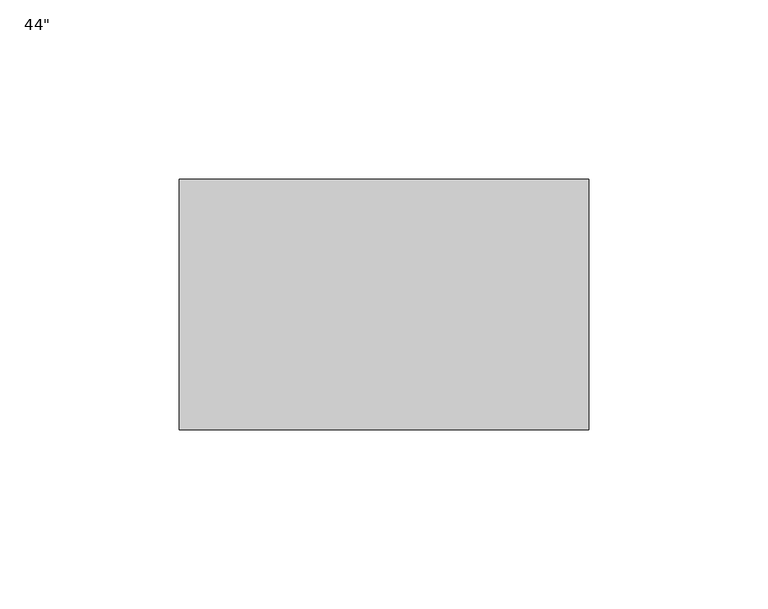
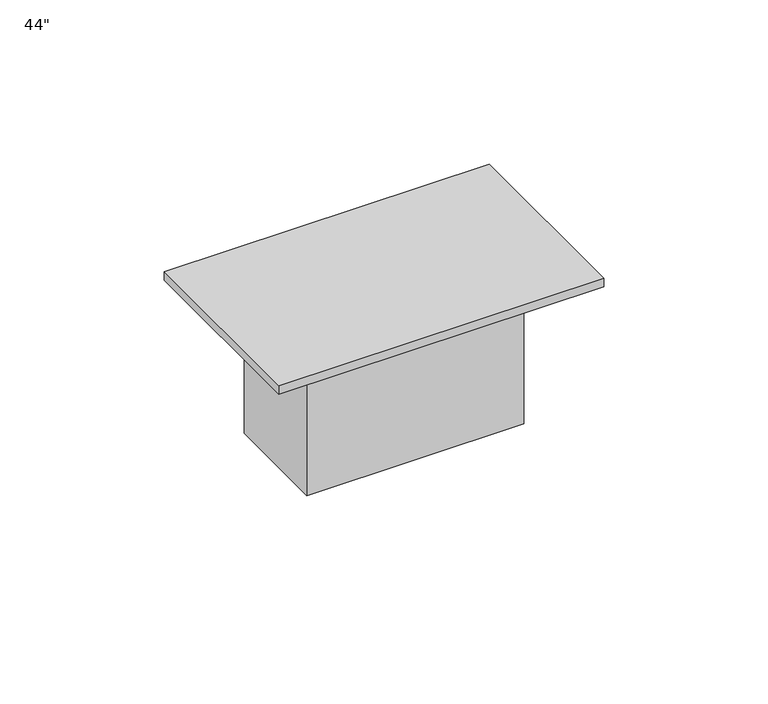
"""IFC4 building model written with IfcOpenShell, lengths in millimetres: proxy geometry."""

import ifcopenshell
import ifcopenshell.guid

model = None  # the IFC model being written
_history = None  # IfcOwnerHistory: only IFC2X3 demands one
_inside = {}  # id of a spatial element -> (the spatial element, [elements in it])
_under = {}  # id of a project, library or spatial element -> (it, [spatial elements below it])
_declared = {}  # id of a project -> (the project, [libraries it declares])
_typed = {}  # id of a type object -> (the type object, [elements of that type])
_made_of = {}  # id of a material, layer set ... -> (it, [elements and type objects made of it])


def new_model(schema):
    """Start an empty IFC model of exactly this schema.

    Asked for "IFC4X3", IfcOpenShell would pick the latest addendum, in which some entities
    have other attributes; the version numbers below select the first issue.
    IFC2X3 requires an IfcOwnerHistory on every rooted entity: one is made here for all.
    """
    global model, _history
    if schema == "IFC4X3":
        model = ifcopenshell.file(schema_version=(4, 3, 0, 0))
    else:
        model = ifcopenshell.file(schema=schema)
    _inside.clear()
    _under.clear()
    _declared.clear()
    _typed.clear()
    _made_of.clear()
    _history = None
    if model.schema == "IFC2X3":
        org = make("IfcOrganization", Name="unknown")
        user = make(
            "IfcPersonAndOrganization",
            ThePerson=make("IfcPerson", FamilyName="unknown"),
            TheOrganization=org,
        )
        app = make(
            "IfcApplication",
            ApplicationDeveloper=org,
            Version="unknown",
            ApplicationFullName="unknown",
            ApplicationIdentifier="unknown",
        )
        _history = make(
            "IfcOwnerHistory",
            OwningUser=user,
            OwningApplication=app,
            ChangeAction="ADDED",
            CreationDate=0,
        )
    return model


def make(cls, **values):
    """One entity of the class cls with the attributes given. An attribute that is None is left unset."""
    return model.create_entity(
        cls, **{name: value for name, value in values.items() if value is not None}
    )


def rooted(cls, **values):
    """An entity with a GlobalId (a new one), such as an element, a storey or a relation."""
    return make(cls, GlobalId=ifcopenshell.guid.new(), OwnerHistory=_history, **values)


def si_unit(unit_type, name, prefix=None):
    """IfcSIUnit, for example si_unit("LENGTHUNIT", "METRE", prefix="MILLI")."""
    return make("IfcSIUnit", UnitType=unit_type, Prefix=prefix, Name=name)


def assignment(units):
    """IfcUnitAssignment: the units of a project."""
    return None if units is None else make("IfcUnitAssignment", Units=units)


def point(xyz):
    """IfcCartesianPoint."""
    return None if xyz is None else make("IfcCartesianPoint", Coordinates=xyz)


def direction(xyz):
    """IfcDirection."""
    return None if xyz is None else make("IfcDirection", DirectionRatios=xyz)


def frame(location, z_axis=None, x_axis=None):
    """IfcAxis2Placement3D, a coordinate frame: its origin and axes. An axis left out is left unset."""
    return make(
        "IfcAxis2Placement3D",
        Location=point(location),
        Axis=direction(z_axis),
        RefDirection=direction(x_axis),
    )


def origin():
    """The frame at (0, 0, 0) with its axes left unset."""
    return frame((0.0, 0.0, 0.0))


def origin_with_axes():
    """The frame at (0, 0, 0) with the z axis (0, 0, 1) and the x axis (1, 0, 0) written out."""
    return frame((0.0, 0.0, 0.0), z_axis=(0.0, 0.0, 1.0), x_axis=(1.0, 0.0, 0.0))


def place(relative_to, where):
    """IfcLocalPlacement: puts the frame where relative to a parent placement (None: the world)."""
    return make(
        "IfcLocalPlacement", PlacementRelTo=relative_to, RelativePlacement=where
    )


def context(
    kind, dimensions, precision=None, world=None, true_north=None, identifier=None
):
    """IfcGeometricRepresentationContext, for example the 3D "Model" context."""
    return make(
        "IfcGeometricRepresentationContext",
        ContextIdentifier=identifier,
        ContextType=kind,
        CoordinateSpaceDimension=dimensions,
        Precision=precision,
        WorldCoordinateSystem=world,
        TrueNorth=true_north,
    )


def project(units=None, contexts=None):
    """IfcProject with its units and contexts."""
    return rooted(
        "IfcProject",
        Name="project",
        RepresentationContexts=contexts,
        UnitsInContext=assignment(units),
    )


def spatial(cls, under=None, at=None, **own):
    """A site, building, storey or space (cls), placed at a placement, below another one or the project."""
    s = rooted(cls, ObjectPlacement=at, **own)
    if under is not None:
        _under.setdefault(under.id(), (under, []))[1].append(s)
    return s


def polyline(points):
    """IfcPolyline through the points."""
    return make("IfcPolyline", Points=[point(p) for p in points])


def outline(outer, holes=None, kind="AREA"):
    """IfcArbitraryClosedProfileDef: a profile drawn as a closed curve; with holes, ...WithVoids."""
    if holes is None:
        return make("IfcArbitraryClosedProfileDef", ProfileType=kind, OuterCurve=outer)
    return make(
        "IfcArbitraryProfileDefWithVoids",
        ProfileType=kind,
        OuterCurve=outer,
        InnerCurves=holes,
    )


def extrude(swept, where, along, depth):
    """IfcExtrudedAreaSolid: the profile swept, set in the frame where, extruded along a direction by depth."""
    return make(
        "IfcExtrudedAreaSolid",
        SweptArea=swept,
        Position=where,
        ExtrudedDirection=direction(along),
        Depth=depth,
    )


def shape(context_of_items, identifier, shape_type, items):
    """IfcShapeRepresentation: the items that make up one representation, for example the "Body"."""
    return make(
        "IfcShapeRepresentation",
        ContextOfItems=context_of_items,
        RepresentationIdentifier=identifier,
        RepresentationType=shape_type,
        Items=items,
    )


def source(mapping_origin, context_of_items, identifier, shape_type, items):
    """IfcRepresentationMap: a shape defined once, which mapped items show again and again."""
    return make(
        "IfcRepresentationMap",
        MappingOrigin=mapping_origin,
        MappedRepresentation=shape(context_of_items, identifier, shape_type, items),
    )


def transform(
    local_origin,
    x_axis=None,
    y_axis=None,
    z_axis=None,
    scale=None,
    scale2=None,
    scale3=None,
    uniform=True,
):
    """IfcCartesianTransformationOperator3D, or its non-uniform kind. x_axis, y_axis, z_axis: its Axis1, 2, 3."""
    if uniform:
        return make(
            "IfcCartesianTransformationOperator3D",
            Axis1=direction(x_axis),
            Axis2=direction(y_axis),
            LocalOrigin=point(local_origin),
            Scale=scale,
            Axis3=direction(z_axis),
        )
    return make(
        "IfcCartesianTransformationOperator3DnonUniform",
        Axis1=direction(x_axis),
        Axis2=direction(y_axis),
        LocalOrigin=point(local_origin),
        Scale=scale,
        Axis3=direction(z_axis),
        Scale2=scale2,
        Scale3=scale3,
    )


def mapped(mapping_source, mapping_target):
    """IfcMappedItem: shows the shape of a source again, moved by a transform."""
    return make(
        "IfcMappedItem", MappingSource=mapping_source, MappingTarget=mapping_target
    )


def made_of(thing, what):
    """Note that an element or type object is made of a material, layer set ...; save() writes the relation."""
    if what is not None:
        _made_of.setdefault(what.id(), (what, []))[1].append(thing)
    return thing


def element(
    cls,
    number,
    at=None,
    inside=None,
    cuts=None,
    type_object=None,
    material=None,
    context=None,
    identifier="Body",
    shape_type=None,
    held_by="IfcProductDefinitionShape",
    body=None,
    shapes=None,
    **own,
):
    """One element of the class cls, such as IfcWall. Its Tag is "e" and its number.

    at: its placement. inside: the storey or other place that contains it. cuts: it is an
    opening in that element (IfcRelVoidsElement). A single representation is given by context,
    identifier, shape_type and body (its items); several are given by shapes. held_by: the class
    of the entity that holds the representations. save() writes the other relations.
    """
    e = rooted(cls, Tag="e%d" % number, ObjectPlacement=at, **own)
    if body is not None:
        shapes = [shape(context, identifier, shape_type, body)]
    if shapes is not None:
        e.Representation = make(held_by, Representations=shapes)
    if inside is not None:
        _inside.setdefault(inside.id(), (inside, []))[1].append(e)
    if cuts is not None:
        rooted(
            "IfcRelVoidsElement", RelatingBuildingElement=cuts, RelatedOpeningElement=e
        )
    if type_object is not None:
        _typed.setdefault(type_object.id(), (type_object, []))[1].append(e)
    return made_of(e, material)


def aggregate(whole, parts):
    """IfcRelAggregates: a whole, such as a stair, and the parts it consists of."""
    return rooted("IfcRelAggregates", RelatingObject=whole, RelatedObjects=parts)


def save(model, path):
    """Write the relations noted so far, then the file.

    IfcRelAggregates (storeys below a building ...), IfcRelContainedInSpatialStructure (elements
    in a storey), IfcRelDefinesByType, IfcRelAssociatesMaterial and IfcRelDeclares: one each for
    every whole, place, type object, material and project.
    """
    for whole, parts in _under.values():
        aggregate(whole, parts)
    for where, things in _inside.values():
        rooted(
            "IfcRelContainedInSpatialStructure",
            RelatedElements=things,
            RelatingStructure=where,
        )
    for kind, things in _typed.values():
        rooted("IfcRelDefinesByType", RelatedObjects=things, RelatingType=kind)
    for what, things in _made_of.values():
        rooted("IfcRelAssociatesMaterial", RelatedObjects=things, RelatingMaterial=what)
    for by, libraries in _declared.values():
        rooted("IfcRelDeclares", RelatingContext=by, RelatedDefinitions=libraries)
    model.write(path)


def proxy_c431c16a(model_context):
    return source(origin(), model_context, "Body", "SweptSolid", [
        extrude(outline(polyline([(-38.1, 1136.65), (38.1, 1136.65), (38.1, 1098.55), (-38.1, 1098.55), (-38.1, 1136.65)])), frame((0.0, 0.0, -53.975), z_axis=(0.0, 0.0, 1.0), x_axis=(1.0, 0.0, 0.0)), (0.0, 0.0, 1.0), 53.975),
        extrude(outline(polyline([(-57.15, 1152.525), (57.15, 1152.525), (57.15, 1082.675), (-57.15, 1082.675), (-57.15, 1152.525)])), origin_with_axes(), (0.0, 0.0, 1.0), 3.175),
    ])


if __name__ == "__main__":
    model = new_model("IFC4")
    model_context = context("Model", 3, world=origin())
    ifc_project = project(units=[si_unit("LENGTHUNIT", "METRE", prefix="MILLI")], contexts=[model_context])
    site = spatial("IfcSite", under=ifc_project)
    building = spatial("IfcBuilding", under=site)
    placement = place(None, origin())
    proxy_shape = proxy_c431c16a(model_context)
    element("IfcBuildingElementProxy", 1, Name="BA_EF - Receptacle Duplex Wall : 44\"", ObjectType="BA_EF - Receptacle Duplex Wall : 44\"", at=placement, inside=building, context=model_context, shape_type="MappedRepresentation", body=[
        mapped(proxy_shape, transform((0.0, 0.0, 0.0), x_axis=(1.0, 0.0, 0.0), y_axis=(0.0, 1.0, 0.0), z_axis=(0.0, 0.0, 1.0))),
    ])
    save(model, "model.ifc")
